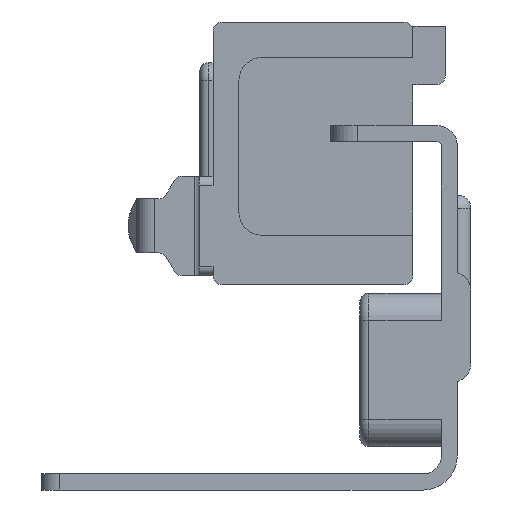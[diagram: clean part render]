
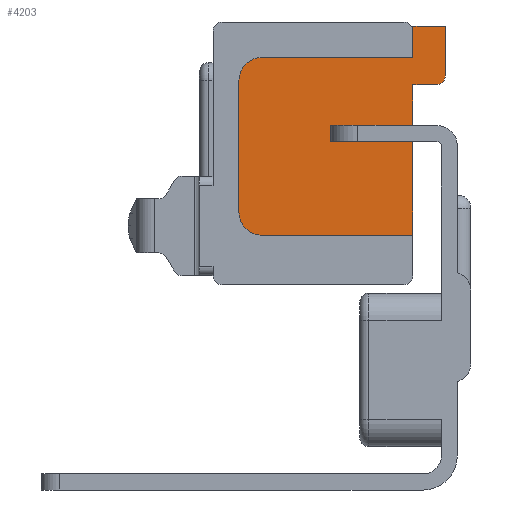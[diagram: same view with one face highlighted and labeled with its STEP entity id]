
A CAD part, left-side view. The second image highlights one B-rep face of the part: STEP entity #4203.
In plain terms, the highlighted planar face has unit normal (-1, 0, 0).
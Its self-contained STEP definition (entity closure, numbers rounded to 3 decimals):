
#12 = CARTESIAN_POINT ( 'NONE',  ( 30.7, 4.9, 73.625 ) ) ;
#71 = CARTESIAN_POINT ( 'NONE',  ( 30.7, 4.9, 88.025 ) ) ;
#91 = LINE ( 'NONE', #3879, #4897 ) ;
#98 = DIRECTION ( 'NONE',  ( 0., 0., -1. ) ) ;
#121 = DIRECTION ( 'NONE',  ( 0., 1., 0. ) ) ;
#151 = DIRECTION ( 'NONE',  ( 0., 0., 1. ) ) ;
#200 = EDGE_CURVE ( 'NONE', #5661, #3221, #6219, .T. ) ;
#317 = CARTESIAN_POINT ( 'NONE',  ( 30.7, 20.06, 81.555 ) ) ;
#328 = EDGE_CURVE ( 'NONE', #2524, #4310, #1526, .T. ) ;
#341 = CARTESIAN_POINT ( 'NONE',  ( 30.7, 12.15, 75.29 ) ) ;
#361 = DIRECTION ( 'NONE',  ( 0., -1., 0. ) ) ;
#414 = EDGE_CURVE ( 'NONE', #5609, #5013, #2244, .T. ) ;
#437 = CARTESIAN_POINT ( 'NONE',  ( 30.7, 14., 77.06 ) ) ;
#449 = CARTESIAN_POINT ( 'NONE',  ( 30.7, 14., 75.29 ) ) ;
#525 = AXIS2_PLACEMENT_3D ( 'NONE', #6297, #4737, #1683 ) ;
#566 = DIRECTION ( 'NONE',  ( 0., 0., 1. ) ) ;
#626 = EDGE_CURVE ( 'NONE', #2154, #6259, #1133, .T. ) ;
#757 = VECTOR ( 'NONE', #4711, 1000. ) ;
#788 = EDGE_CURVE ( 'NONE', #4374, #5369, #3843, .T. ) ;
#805 = CARTESIAN_POINT ( 'NONE',  ( 30.7, 4.9, 77.06 ) ) ;
#831 = FACE_OUTER_BOUND ( 'NONE', #5647, .T. ) ;
#887 = EDGE_CURVE ( 'NONE', #3831, #5143, #4391, .T. ) ;
#941 = CARTESIAN_POINT ( 'NONE',  ( 30.7, 2.33, 82.555 ) ) ;
#1006 = DIRECTION ( 'NONE',  ( 0., 0., 1. ) ) ;
#1050 = VECTOR ( 'NONE', #151, 1000. ) ;
#1069 = AXIS2_PLACEMENT_3D ( 'NONE', #1308, #1330, #1351 ) ;
#1073 = EDGE_CURVE ( 'NONE', #3221, #3283, #5744, .T. ) ;
#1126 = DIRECTION ( 'NONE',  ( 0., -1., 0. ) ) ;
#1133 = CIRCLE ( 'NONE', #5652, 1. ) ;
#1180 = DIRECTION ( 'NONE',  ( 1., 0., 0. ) ) ;
#1211 = CARTESIAN_POINT ( 'NONE',  ( 30.7, 1.33, 88.025 ) ) ;
#1308 = CARTESIAN_POINT ( 'NONE',  ( 30.7, 21.63, 82.055 ) ) ;
#1317 = VECTOR ( 'NONE', #566, 1000. ) ;
#1327 = DIRECTION ( 'NONE',  ( 0., 0., 1. ) ) ;
#1330 = DIRECTION ( 'NONE',  ( -1., 0., 0. ) ) ;
#1351 = DIRECTION ( 'NONE',  ( 0., 0., 1. ) ) ;
#1526 = LINE ( 'NONE', #5554, #2705 ) ;
#1683 = DIRECTION ( 'NONE',  ( 0., 0., 1. ) ) ;
#1920 = AXIS2_PLACEMENT_3D ( 'NONE', #3291, #5745, #2819 ) ;
#1960 = CARTESIAN_POINT ( 'NONE',  ( 30.7, 21.53, 64.925 ) ) ;
#2109 = LINE ( 'NONE', #4214, #757 ) ;
#2146 = CARTESIAN_POINT ( 'NONE',  ( 30.7, 4.9, 84.555 ) ) ;
#2154 = VERTEX_POINT ( 'NONE', #5384 ) ;
#2244 = LINE ( 'NONE', #12, #5992 ) ;
#2341 = VECTOR ( 'NONE', #361, 1000. ) ;
#2420 = VECTOR ( 'NONE', #1126, 1000. ) ;
#2496 = VECTOR ( 'NONE', #1006, 1000. ) ;
#2524 = VERTEX_POINT ( 'NONE', #805 ) ;
#2552 = LINE ( 'NONE', #3142, #1050 ) ;
#2632 = EDGE_CURVE ( 'NONE', #3283, #4374, #91, .T. ) ;
#2692 = EDGE_CURVE ( 'NONE', #5369, #5013, #3734, .T. ) ;
#2705 = VECTOR ( 'NONE', #121, 1000. ) ;
#2805 = LINE ( 'NONE', #71, #1317 ) ;
#2819 = DIRECTION ( 'NONE',  ( 0., 0., 1. ) ) ;
#2888 = EDGE_CURVE ( 'NONE', #5187, #6259, #4961, .T. ) ;
#3013 = CARTESIAN_POINT ( 'NONE',  ( 30.7, 4.9, 64.925 ) ) ;
#3058 = ORIENTED_EDGE ( 'NONE', *, *, #328, .F. ) ;
#3082 = VECTOR ( 'NONE', #3198, 1000. ) ;
#3142 = CARTESIAN_POINT ( 'NONE',  ( 30.7, 1.33, 81.555 ) ) ;
#3198 = DIRECTION ( 'NONE',  ( 0., 1., 0. ) ) ;
#3221 = VERTEX_POINT ( 'NONE', #5420 ) ;
#3283 = VERTEX_POINT ( 'NONE', #4546 ) ;
#3291 = CARTESIAN_POINT ( 'NONE',  ( 30.7, 21.53, 73.625 ) ) ;
#3305 = DIRECTION ( 'NONE',  ( 0., 1., 0. ) ) ;
#3335 = CARTESIAN_POINT ( 'NONE',  ( 30.7, 4.9, 84.555 ) ) ;
#3352 = ORIENTED_EDGE ( 'NONE', *, *, #6102, .T. ) ;
#3411 = CARTESIAN_POINT ( 'NONE',  ( 30.7, 21.63, 64.925 ) ) ;
#3480 = VECTOR ( 'NONE', #3823, 1000. ) ;
#3734 = LINE ( 'NONE', #1960, #2420 ) ;
#3795 = DIRECTION ( 'NONE',  ( 0., 0., -1. ) ) ;
#3799 = LINE ( 'NONE', #3013, #2496 ) ;
#3823 = DIRECTION ( 'NONE',  ( 0., -1., 0. ) ) ;
#3831 = VERTEX_POINT ( 'NONE', #4825 ) ;
#3843 = CIRCLE ( 'NONE', #525, 2.5 ) ;
#3847 = ORIENTED_EDGE ( 'NONE', *, *, #6373, .T. ) ;
#3879 = CARTESIAN_POINT ( 'NONE',  ( 30.7, 24.13, 67.425 ) ) ;
#3895 = ORIENTED_EDGE ( 'NONE', *, *, #2888, .T. ) ;
#4113 = EDGE_CURVE ( 'NONE', #5661, #5143, #2805, .T. ) ;
#4203 = ADVANCED_FACE ( 'NONE', ( #831 ), #4291, .F. ) ;
#4214 = CARTESIAN_POINT ( 'NONE',  ( 30.7, 14., 75.29 ) ) ;
#4242 = ORIENTED_EDGE ( 'NONE', *, *, #4879, .F. ) ;
#4291 = PLANE ( 'NONE',  #1920 ) ;
#4310 = VERTEX_POINT ( 'NONE', #437 ) ;
#4374 = VERTEX_POINT ( 'NONE', #5898 ) ;
#4391 = LINE ( 'NONE', #1211, #3082 ) ;
#4546 = CARTESIAN_POINT ( 'NONE',  ( 30.7, 24.13, 82.055 ) ) ;
#4555 = ORIENTED_EDGE ( 'NONE', *, *, #414, .F. ) ;
#4614 = CARTESIAN_POINT ( 'NONE',  ( 30.7, 4.9, 88.025 ) ) ;
#4631 = CARTESIAN_POINT ( 'NONE',  ( 30.7, 4.9, 81.555 ) ) ;
#4711 = DIRECTION ( 'NONE',  ( 0., 0., 1. ) ) ;
#4737 = DIRECTION ( 'NONE',  ( -1., 0., 0. ) ) ;
#4746 = ORIENTED_EDGE ( 'NONE', *, *, #626, .F. ) ;
#4788 = LINE ( 'NONE', #341, #3480 ) ;
#4825 = CARTESIAN_POINT ( 'NONE',  ( 30.7, 1.33, 88.025 ) ) ;
#4879 = EDGE_CURVE ( 'NONE', #6060, #5609, #4788, .T. ) ;
#4897 = VECTOR ( 'NONE', #3795, 1000. ) ;
#4932 = VECTOR ( 'NONE', #3305, 1000. ) ;
#4961 = LINE ( 'NONE', #317, #2341 ) ;
#5001 = ORIENTED_EDGE ( 'NONE', *, *, #200, .T. ) ;
#5013 = VERTEX_POINT ( 'NONE', #5486 ) ;
#5046 = ORIENTED_EDGE ( 'NONE', *, *, #5156, .T. ) ;
#5143 = VERTEX_POINT ( 'NONE', #4614 ) ;
#5156 = EDGE_CURVE ( 'NONE', #2154, #3831, #2552, .T. ) ;
#5167 = ORIENTED_EDGE ( 'NONE', *, *, #2692, .T. ) ;
#5187 = VERTEX_POINT ( 'NONE', #4631 ) ;
#5342 = ORIENTED_EDGE ( 'NONE', *, *, #4113, .F. ) ;
#5369 = VERTEX_POINT ( 'NONE', #3411 ) ;
#5384 = CARTESIAN_POINT ( 'NONE',  ( 30.7, 1.33, 82.555 ) ) ;
#5420 = CARTESIAN_POINT ( 'NONE',  ( 30.7, 21.63, 84.555 ) ) ;
#5486 = CARTESIAN_POINT ( 'NONE',  ( 30.7, 4.9, 64.925 ) ) ;
#5554 = CARTESIAN_POINT ( 'NONE',  ( 30.7, 12.42, 77.06 ) ) ;
#5586 = CARTESIAN_POINT ( 'NONE',  ( 30.7, 2.33, 81.555 ) ) ;
#5609 = VERTEX_POINT ( 'NONE', #6019 ) ;
#5647 = EDGE_LOOP ( 'NONE', ( #3058, #3352, #3895, #4746, #5046, #5882, #5342, #5001, #6291, #5837, #5677, #5167, #4555, #4242, #3847 ) ) ;
#5652 = AXIS2_PLACEMENT_3D ( 'NONE', #941, #1180, #1327 ) ;
#5661 = VERTEX_POINT ( 'NONE', #2146 ) ;
#5677 = ORIENTED_EDGE ( 'NONE', *, *, #788, .T. ) ;
#5744 = CIRCLE ( 'NONE', #1069, 2.5 ) ;
#5745 = DIRECTION ( 'NONE',  ( 1., 0., 0. ) ) ;
#5837 = ORIENTED_EDGE ( 'NONE', *, *, #2632, .T. ) ;
#5882 = ORIENTED_EDGE ( 'NONE', *, *, #887, .T. ) ;
#5898 = CARTESIAN_POINT ( 'NONE',  ( 30.7, 24.13, 67.425 ) ) ;
#5992 = VECTOR ( 'NONE', #98, 1000. ) ;
#6019 = CARTESIAN_POINT ( 'NONE',  ( 30.7, 4.9, 75.29 ) ) ;
#6060 = VERTEX_POINT ( 'NONE', #449 ) ;
#6102 = EDGE_CURVE ( 'NONE', #2524, #5187, #3799, .T. ) ;
#6219 = LINE ( 'NONE', #3335, #4932 ) ;
#6259 = VERTEX_POINT ( 'NONE', #5586 ) ;
#6291 = ORIENTED_EDGE ( 'NONE', *, *, #1073, .T. ) ;
#6297 = CARTESIAN_POINT ( 'NONE',  ( 30.7, 21.63, 67.425 ) ) ;
#6373 = EDGE_CURVE ( 'NONE', #6060, #4310, #2109, .T. ) ;
